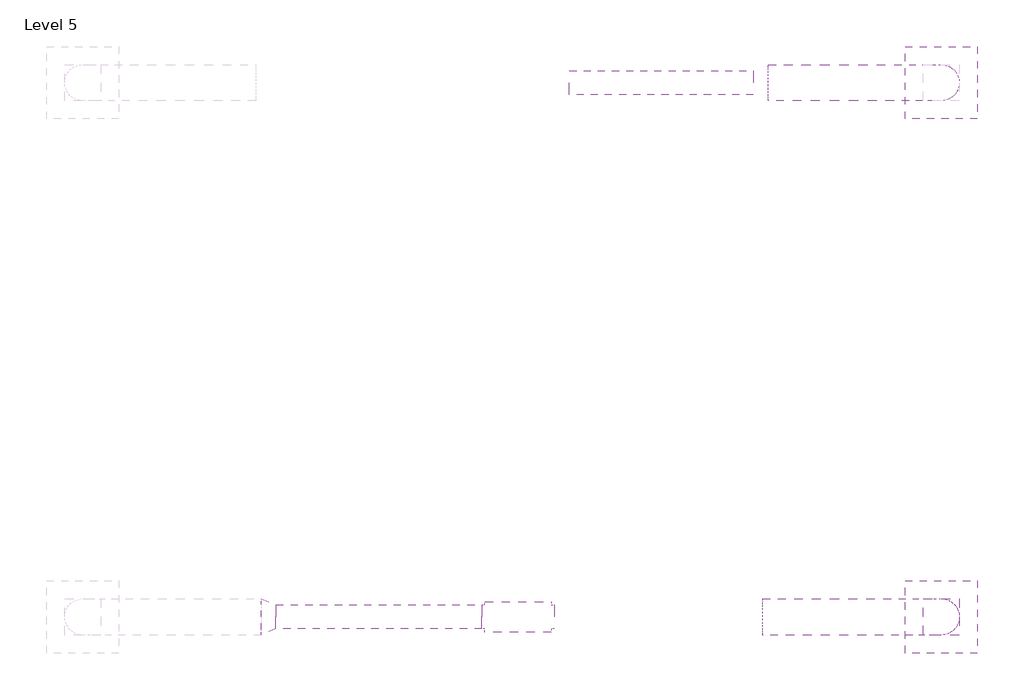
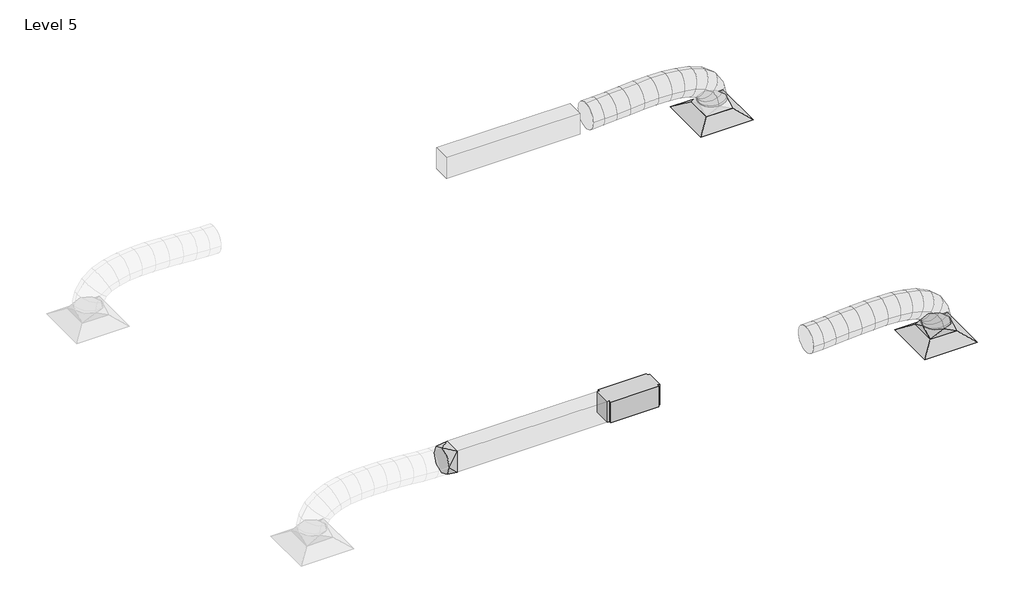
# One storey, part 6 of 7: 4 duct segments, 3 duct fittings, 2 air terminals.
"""IFC4 building model written with IfcOpenShell, lengths in millimetres."""

from ifc_helpers import new_model, si_unit, frame, origin, place, context, project, spatial, polyline, circle_curve, ellipse_curve, outline, extrude, transform, mapped, element, save
from ifc_brep_helpers import plane_surface, cylinder_surface, advanced_brep
from components import supply_diffuser_24_x_24_face_16_x_16_connection_ff221211, rectangular_cross_standard_e33e2d2a, rectangular_to_round_transition_angle_45_degree_641efff0, rectangular_to_round_transition_angle_45_degree_389d55c9

model = new_model("IFC4")

# Units and contexts
model_context = context("Model", 3, world=origin())
ifc_project = project(units=[si_unit("LENGTHUNIT", "METRE", prefix="MILLI")], contexts=[model_context])

# Site, building, storey
site = spatial("IfcSite", under=ifc_project)
building = spatial("IfcBuilding", under=site)
storey = spatial("IfcBuildingStorey", under=building, Name="Level 5", Elevation=19507.2)

# Air terminals
placement = place(None, origin())
supply_diffuser_24_x_24_face_16_x_16_connection_shape = supply_diffuser_24_x_24_face_16_x_16_connection_ff221211(model_context)
element("IfcAirTerminal", 1, ObjectType="Supply Diffuser : 24 x 24 Face 16 x 16 Connection", at=placement, inside=storey, context=model_context, shape_type="MappedRepresentation", body=[
    mapped(supply_diffuser_24_x_24_face_16_x_16_connection_shape, transform((5721.7425718, 8760.722681, 21507.2), x_axis=(1.0, 0.0, 0.0), y_axis=(0.0, 1.0, 0.0), z_axis=(0.0, 0.0, 1.0))),
])
element("IfcAirTerminal", 2, ObjectType="Supply Diffuser : 24 x 24 Face 16 x 16 Connection", at=placement, inside=storey, context=model_context, shape_type="MappedRepresentation", body=[
    mapped(supply_diffuser_24_x_24_face_16_x_16_connection_shape, transform((5721.7425718, 4332.0573383, 21507.2), x_axis=(1.0, 0.0, 0.0), y_axis=(0.0, 1.0, 0.0), z_axis=(0.0, 0.0, 1.0))),
])

# Duct fittings
rectangular_cross_standard_shape = rectangular_cross_standard_e33e2d2a(model_context)
element("IfcDuctFitting", 3, ObjectType="Rectangular Cross : Standard", at=placement, inside=storey, context=model_context, shape_type="MappedRepresentation", body=[
    mapped(rectangular_cross_standard_shape, transform((2213.8567543, 4332.0573383, 21983.425), x_axis=(0.0, 1.0, 0.0), y_axis=(-1.0, 0.0, 0.0), z_axis=(0.0, 0.0, 1.0))),
])
rectangular_to_round_transition_angle_45_degree_shape = rectangular_to_round_transition_angle_45_degree_641efff0(model_context)
element("IfcDuctFitting", 4, ObjectType="Rectangular to Round Transition - Angle : 45 Degree", at=placement, inside=storey, context=model_context, shape_type="MappedRepresentation", body=[
    mapped(rectangular_to_round_transition_angle_45_degree_shape, transform((5721.7425718, 4332.0573383, 21608.8), x_axis=(0.0, 0.0, 1.0), y_axis=(-1.0, 0.0, 0.0), z_axis=(0.0, -1.0, 0.0))),
])
rectangular_to_round_transition_angle_45_degree_2_shape = rectangular_to_round_transition_angle_45_degree_389d55c9(model_context)
element("IfcDuctFitting", 5, ObjectType="Rectangular to Round Transition - Angle : 45 Degree", at=placement, inside=storey, context=model_context, shape_type="MappedRepresentation", body=[
    mapped(rectangular_to_round_transition_angle_45_degree_2_shape, transform((204.5785277, 4332.0573383, 21983.425), x_axis=(-1.0, 0.0, 0.0), y_axis=(0.0, -1.0, 0.0), z_axis=(0.0, 0.0, 1.0))),
])

# Duct segments
element("IfcDuctSegment", 6, ObjectType="Flex - Round", at=placement, inside=storey, context=model_context, shape_type="AdvancedBrep", body=[
    advanced_brep(
    [(5871.7425718, 8760.722681, 21683.8), (5721.7425718, 8610.722681, 21683.8), (5571.7425718, 8760.722681, 21683.8), (5721.7425718, 8910.722681, 21683.8), (5871.7425718, 8760.722681, 21726.4386999), (5721.7425718, 8610.722681, 21709.537629), (5571.7425718, 8760.722681, 21692.6365582), (5721.7425718, 8910.722681, 21709.537629), (5843.2263211, 8760.722681, 21851.3755727), (5702.8228234, 8610.722681, 21792.4298095), (5562.4193257, 8760.722681, 21733.4840463), (5702.8228234, 8910.722681, 21792.4298095), (5760.5349522, 8760.722681, 21980.2245238), (5649.3166285, 8610.722681, 21875.8026836), (5538.0983049, 8760.722681, 21771.3808434), (5649.3166285, 8910.722681, 21875.8026836), (5638.8818326, 8760.722681, 22069.5928255), (5566.1035624, 8610.722681, 21936.9323153), (5493.3252922, 8760.722681, 21804.2718051), (5566.1035624, 8910.722681, 21936.9323153), (5500.2491473, 8760.722681, 22123.3571856), (5458.0632003, 8610.722681, 21978.8323977), (5415.8772533, 8760.722681, 21834.3076098), (5458.0632003, 8910.722681, 21978.8323977), (5351.4165518, 8760.722681, 22153.2244198), (5330.0751175, 8610.722681, 22004.5166239), (5308.7336833, 8760.722681, 21855.8088279), (5330.0751175, 8910.722681, 22004.5166239), (5194.6704032, 8760.722681, 22166.9009673), (5187.0188893, 8610.722681, 22016.9986868), (5179.3673754, 8760.722681, 21867.0964064), (5187.0188893, 8910.722681, 22016.9986868), (5032.5880275, 8760.722681, 22169.3268308), (5033.774091, 8610.722681, 22019.2922796), (5034.9601544, 8760.722681, 21869.2577284), (5033.774091, 8910.722681, 22019.2922796), (4868.6525644, 8760.722681, 22164.2799683), (4875.2202978, 8610.722681, 22014.4110954), (4881.7880312, 8760.722681, 21864.5422225), (4875.2202978, 8910.722681, 22014.4110954), (4707.0434467, 8760.722681, 22155.0883501), (4716.237085, 8610.722681, 22005.3688271), (4725.4307233, 8760.722681, 21855.6493042), (4716.237085, 8910.722681, 22005.3688271), (4552.4770852, 8760.722681, 22144.8964948), (4561.704028, 8610.722681, 21995.1791679), (4570.9309708, 8760.722681, 21845.461841), (4561.704028, 8910.722681, 21995.1791679), (4410.17521, 8760.722681, 22136.7394549), (4416.5007019, 8610.722681, 21986.8558108), (4422.8261938, 8760.722681, 21836.9721667), (4416.5007019, 8910.722681, 21986.8558108), (4287.4181734, 8760.722681, 22133.4124301), (4289.4497531, 8610.722681, 21983.4124102), (4291.4813329, 8760.722681, 21833.4123902), (4289.4497531, 8910.722681, 21983.4124102), (4285.5081543, 8760.722681, 22133.4124488), (4285.5066821, 8610.722681, 21983.4124489), (4285.5052099, 8760.722681, 21833.4124489), (4285.5066821, 8910.722681, 21983.4124489)],
    [
        (0, 1, circle_curve(frame((5721.7425718, 8760.722681, 21683.8), z_axis=(0.0, 0.0, -1.0), x_axis=(1.0, 0.0, 0.0)), 150.0)),
        (1, 2, circle_curve(frame((5721.7425718, 8760.722681, 21683.8), z_axis=(0.0, 0.0, -1.0), x_axis=(1.0, 0.0, 0.0)), 150.0)),
        (2, 3, circle_curve(frame((5721.7425718, 8760.722681, 21683.8), z_axis=(0.0, 0.0, -1.0), x_axis=(1.0, 0.0, 0.0)), 150.0)),
        (3, 0, circle_curve(frame((5721.7425718, 8760.722681, 21683.8), z_axis=(0.0, 0.0, -1.0), x_axis=(1.0, 0.0, 0.0)), 150.0)),
        (0, 4),
        (4, 5, ellipse_curve(frame((5721.7425718, 8760.722681, 21709.537629), z_axis=(0.11196532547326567, 0.0, -0.9937121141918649), x_axis=(-0.9937121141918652, 0.0, -0.1119653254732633)), 150.949151, 150.0)),
        (5, 1),
        (5, 6, ellipse_curve(frame((5721.7425718, 8760.722681, 21709.537629), z_axis=(0.11196532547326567, 0.0, -0.9937121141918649), x_axis=(-0.9937121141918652, 0.0, -0.1119653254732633)), 150.949151, 150.0)),
        (6, 2),
        (6, 7, ellipse_curve(frame((5721.7425718, 8760.722681, 21709.537629), z_axis=(0.11196532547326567, 0.0, -0.9937121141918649), x_axis=(-0.9937121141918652, 0.0, -0.1119653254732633)), 150.949151, 150.0)),
        (7, 3),
        (7, 4, ellipse_curve(frame((5721.7425718, 8760.722681, 21709.537629), z_axis=(0.11196532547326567, 0.0, -0.9937121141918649), x_axis=(-0.9937121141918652, 0.0, -0.1119653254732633)), 150.949151, 150.0)),
        (4, 8),
        (8, 9, ellipse_curve(frame((5702.8228234, 8760.722681, 21792.4298095), z_axis=(0.38710014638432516, 0.0, -0.9220376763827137), x_axis=(-0.9220376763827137, 0.0, -0.3871001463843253)), 152.2752283, 150.0)),
        (9, 5),
        (9, 10, ellipse_curve(frame((5702.8228234, 8760.722681, 21792.4298095), z_axis=(0.38710014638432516, 0.0, -0.9220376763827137), x_axis=(-0.9220376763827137, 0.0, -0.3871001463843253)), 152.2752283, 150.0)),
        (10, 6),
        (10, 11, ellipse_curve(frame((5702.8228234, 8760.722681, 21792.4298095), z_axis=(0.38710014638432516, 0.0, -0.9220376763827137), x_axis=(-0.9220376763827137, 0.0, -0.3871001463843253)), 152.2752283, 150.0)),
        (11, 7),
        (11, 8, ellipse_curve(frame((5702.8228234, 8760.722681, 21792.4298095), z_axis=(0.38710014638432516, 0.0, -0.9220376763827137), x_axis=(-0.9220376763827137, 0.0, -0.3871001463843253)), 152.2752283, 150.0)),
        (8, 12),
        (12, 13, ellipse_curve(frame((5649.3166285, 8760.722681, 21875.8026836), z_axis=(0.6844805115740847, 0.0, -0.7290311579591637), x_axis=(-0.7290311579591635, 0.0, -0.684480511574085)), 152.5563379, 150.0)),
        (13, 9),
        (13, 14, ellipse_curve(frame((5649.3166285, 8760.722681, 21875.8026836), z_axis=(0.6844805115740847, 0.0, -0.7290311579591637), x_axis=(-0.7290311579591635, 0.0, -0.684480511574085)), 152.5563379, 150.0)),
        (14, 10),
        (14, 15, ellipse_curve(frame((5649.3166285, 8760.722681, 21875.8026836), z_axis=(0.6844805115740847, 0.0, -0.7290311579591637), x_axis=(-0.7290311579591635, 0.0, -0.684480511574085)), 152.5563379, 150.0)),
        (15, 11),
        (15, 12, ellipse_curve(frame((5649.3166285, 8760.722681, 21875.8026836), z_axis=(0.6844805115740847, 0.0, -0.7290311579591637), x_axis=(-0.7290311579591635, 0.0, -0.684480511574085)), 152.5563379, 150.0)),
        (12, 16),
        (16, 17, ellipse_curve(frame((5566.1035624, 8760.722681, 21936.9323153), z_axis=(0.8767317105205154, 0.0, -0.48097973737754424), x_axis=(-0.4809797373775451, 0.0, -0.8767317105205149)), 151.3125493, 150.0)),
        (17, 13),
        (17, 18, ellipse_curve(frame((5566.1035624, 8760.722681, 21936.9323153), z_axis=(0.8767317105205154, 0.0, -0.48097973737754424), x_axis=(-0.4809797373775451, 0.0, -0.8767317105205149)), 151.3125493, 150.0)),
        (18, 14),
        (18, 19, ellipse_curve(frame((5566.1035624, 8760.722681, 21936.9323153), z_axis=(0.8767317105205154, 0.0, -0.48097973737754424), x_axis=(-0.4809797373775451, 0.0, -0.8767317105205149)), 151.3125493, 150.0)),
        (19, 15),
        (19, 16, ellipse_curve(frame((5566.1035624, 8760.722681, 21936.9323153), z_axis=(0.8767317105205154, 0.0, -0.48097973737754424), x_axis=(-0.4809797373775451, 0.0, -0.8767317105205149)), 151.3125493, 150.0)),
        (16, 20),
        (20, 21, ellipse_curve(frame((5458.0632003, 8760.722681, 21978.8323977), z_axis=(0.9599412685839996, 0.0, -0.2802012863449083), x_axis=(-0.28020128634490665, 0.0, -0.9599412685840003)), 150.5558649, 150.0)),
        (21, 17),
        (21, 22, ellipse_curve(frame((5458.0632003, 8760.722681, 21978.8323977), z_axis=(0.9599412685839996, 0.0, -0.2802012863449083), x_axis=(-0.28020128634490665, 0.0, -0.9599412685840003)), 150.5558649, 150.0)),
        (22, 18),
        (22, 23, ellipse_curve(frame((5458.0632003, 8760.722681, 21978.8323977), z_axis=(0.9599412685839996, 0.0, -0.2802012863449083), x_axis=(-0.28020128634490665, 0.0, -0.9599412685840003)), 150.5558649, 150.0)),
        (23, 19),
        (23, 20, ellipse_curve(frame((5458.0632003, 8760.722681, 21978.8323977), z_axis=(0.9599412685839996, 0.0, -0.2802012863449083), x_axis=(-0.28020128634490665, 0.0, -0.9599412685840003)), 150.5558649, 150.0)),
        (20, 24),
        (24, 25, ellipse_curve(frame((5330.0751175, 8760.722681, 22004.5166239), z_axis=(0.9898584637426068, 0.0, -0.14205710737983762), x_axis=(-0.14205710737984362, 0.0, -0.9898584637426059)), 150.2313729, 150.0)),
        (25, 21),
        (25, 26, ellipse_curve(frame((5330.0751175, 8760.722681, 22004.5166239), z_axis=(0.9898584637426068, 0.0, -0.14205710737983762), x_axis=(-0.14205710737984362, 0.0, -0.9898584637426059)), 150.2313729, 150.0)),
        (26, 22),
        (26, 27, ellipse_curve(frame((5330.0751175, 8760.722681, 22004.5166239), z_axis=(0.9898584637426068, 0.0, -0.14205710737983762), x_axis=(-0.14205710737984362, 0.0, -0.9898584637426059)), 150.2313729, 150.0)),
        (27, 23),
        (27, 24, ellipse_curve(frame((5330.0751175, 8760.722681, 22004.5166239), z_axis=(0.9898584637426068, 0.0, -0.14205710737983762), x_axis=(-0.14205710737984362, 0.0, -0.9898584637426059)), 150.2313729, 150.0)),
        (24, 28),
        (28, 29, ellipse_curve(frame((5187.0188893, 8760.722681, 22016.9986868), z_axis=(0.9986998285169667, 0.0, -0.05097698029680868), x_axis=(-0.050976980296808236, 0.0, -0.9986998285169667)), 150.0974329, 150.0)),
        (29, 25),
        (29, 30, ellipse_curve(frame((5187.0188893, 8760.722681, 22016.9986868), z_axis=(0.9986998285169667, 0.0, -0.05097698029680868), x_axis=(-0.050976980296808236, 0.0, -0.9986998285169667)), 150.0974329, 150.0)),
        (30, 26),
        (30, 31, ellipse_curve(frame((5187.0188893, 8760.722681, 22016.9986868), z_axis=(0.9986998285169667, 0.0, -0.05097698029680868), x_axis=(-0.050976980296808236, 0.0, -0.9986998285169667)), 150.0974329, 150.0)),
        (31, 27),
        (31, 28, ellipse_curve(frame((5187.0188893, 8760.722681, 22016.9986868), z_axis=(0.9986998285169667, 0.0, -0.05097698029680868), x_axis=(-0.050976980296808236, 0.0, -0.9986998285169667)), 150.0974329, 150.0)),
        (28, 32),
        (32, 33, ellipse_curve(frame((5033.774091, 8760.722681, 22019.2922796), z_axis=(0.999968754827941, 0.0, 0.0079050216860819), x_axis=(0.007905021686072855, 0.0, -0.9999687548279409)), 150.0392392, 150.0)),
        (33, 29),
        (33, 34, ellipse_curve(frame((5033.774091, 8760.722681, 22019.2922796), z_axis=(0.999968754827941, 0.0, 0.0079050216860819), x_axis=(0.007905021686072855, 0.0, -0.9999687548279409)), 150.0392392, 150.0)),
        (34, 30),
        (34, 35, ellipse_curve(frame((5033.774091, 8760.722681, 22019.2922796), z_axis=(0.999968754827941, 0.0, 0.0079050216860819), x_axis=(0.007905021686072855, 0.0, -0.9999687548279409)), 150.0392392, 150.0)),
        (35, 31),
        (35, 32, ellipse_curve(frame((5033.774091, 8760.722681, 22019.2922796), z_axis=(0.999968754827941, 0.0, 0.0079050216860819), x_axis=(0.007905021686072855, 0.0, -0.9999687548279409)), 150.0392392, 150.0)),
        (32, 36),
        (36, 37, ellipse_curve(frame((4875.2202978, 8760.722681, 22014.4110954), z_axis=(0.9990411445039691, 0.0, 0.043781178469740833), x_axis=(0.04378117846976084, 0.0, -0.9990411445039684)), 150.0127134, 150.0)),
        (37, 33),
        (37, 38, ellipse_curve(frame((4875.2202978, 8760.722681, 22014.4110954), z_axis=(0.9990411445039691, 0.0, 0.043781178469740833), x_axis=(0.04378117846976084, 0.0, -0.9990411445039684)), 150.0127134, 150.0)),
        (38, 34),
        (38, 39, ellipse_curve(frame((4875.2202978, 8760.722681, 22014.4110954), z_axis=(0.9990411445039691, 0.0, 0.043781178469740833), x_axis=(0.04378117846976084, 0.0, -0.9990411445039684)), 150.0127134, 150.0)),
        (39, 35),
        (39, 36, ellipse_curve(frame((4875.2202978, 8760.722681, 22014.4110954), z_axis=(0.9990411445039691, 0.0, 0.043781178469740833), x_axis=(0.04378117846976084, 0.0, -0.9990411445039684)), 150.0127134, 150.0)),
        (36, 40),
        (40, 41, ellipse_curve(frame((4716.237085, 8760.722681, 22005.3688271), z_axis=(0.9981199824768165, 0.0, 0.061290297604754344), x_axis=(0.061290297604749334, 0.0, -0.9981199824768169)), 150.0015284, 150.0)),
        (41, 37),
        (41, 42, ellipse_curve(frame((4716.237085, 8760.722681, 22005.3688271), z_axis=(0.9981199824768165, 0.0, 0.061290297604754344), x_axis=(0.061290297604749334, 0.0, -0.9981199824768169)), 150.0015284, 150.0)),
        (42, 38),
        (42, 43, ellipse_curve(frame((4716.237085, 8760.722681, 22005.3688271), z_axis=(0.9981199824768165, 0.0, 0.061290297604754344), x_axis=(0.061290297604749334, 0.0, -0.9981199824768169)), 150.0015284, 150.0)),
        (43, 39),
        (43, 40, ellipse_curve(frame((4716.237085, 8760.722681, 22005.3688271), z_axis=(0.9981199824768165, 0.0, 0.061290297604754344), x_axis=(0.061290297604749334, 0.0, -0.9981199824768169)), 150.0015284, 150.0)),
        (40, 44),
        (44, 45, ellipse_curve(frame((4561.704028, 8760.722681, 21995.1791679), z_axis=(0.9981063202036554, 0.0, 0.06151238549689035), x_axis=(-0.06151238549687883, -1.6819879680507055e-12, 0.9981063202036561)), 150.0013815, 150.0)),
        (45, 41),
        (45, 46, ellipse_curve(frame((4561.704028, 8760.722681, 21995.1791679), z_axis=(0.9981063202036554, 0.0, 0.06151238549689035), x_axis=(-0.06151238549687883, -1.6819879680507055e-12, 0.9981063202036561)), 150.0013815, 150.0)),
        (46, 42),
        (46, 47, ellipse_curve(frame((4561.704028, 8760.722681, 21995.1791679), z_axis=(0.9981063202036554, 0.0, 0.06151238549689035), x_axis=(-0.06151238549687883, -1.6819879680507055e-12, 0.9981063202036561)), 150.0013815, 150.0)),
        (47, 43),
        (47, 44, ellipse_curve(frame((4561.704028, 8760.722681, 21995.1791679), z_axis=(0.9981063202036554, 0.0, 0.06151238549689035), x_axis=(-0.06151238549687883, -1.6819879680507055e-12, 0.9981063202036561)), 150.0013815, 150.0)),
        (44, 48),
        (48, 49, ellipse_curve(frame((4416.5007019, 8760.722681, 21986.8558108), z_axis=(0.9991106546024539, 0.0, 0.04216514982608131), x_axis=(-0.04216514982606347, 0.0, 0.9991106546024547)), 150.0170611, 150.0)),
        (49, 45),
        (49, 50, ellipse_curve(frame((4416.5007019, 8760.722681, 21986.8558108), z_axis=(0.9991106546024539, 0.0, 0.04216514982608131), x_axis=(-0.04216514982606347, 0.0, 0.9991106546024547)), 150.0170611, 150.0)),
        (50, 46),
        (50, 51, ellipse_curve(frame((4416.5007019, 8760.722681, 21986.8558108), z_axis=(0.9991106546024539, 0.0, 0.04216514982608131), x_axis=(-0.04216514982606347, 0.0, 0.9991106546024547)), 150.0170611, 150.0)),
        (51, 47),
        (51, 48, ellipse_curve(frame((4416.5007019, 8760.722681, 21986.8558108), z_axis=(0.9991106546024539, 0.0, 0.04216514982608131), x_axis=(-0.04216514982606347, 0.0, 0.9991106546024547)), 150.0170611, 150.0)),
        (48, 52),
        (52, 53, ellipse_curve(frame((4289.4497531, 8760.722681, 21983.4124102), z_axis=(0.9999082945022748, 0.0, 0.013542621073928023), x_axis=(-0.013542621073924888, 0.0, 0.9999082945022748)), 150.013777, 150.0)),
        (53, 49),
        (53, 54, ellipse_curve(frame((4289.4497531, 8760.722681, 21983.4124102), z_axis=(0.9999082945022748, 0.0, 0.013542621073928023), x_axis=(-0.013542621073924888, 0.0, 0.9999082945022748)), 150.013777, 150.0)),
        (54, 50),
        (54, 55, ellipse_curve(frame((4289.4497531, 8760.722681, 21983.4124102), z_axis=(0.9999082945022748, 0.0, 0.013542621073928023), x_axis=(-0.013542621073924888, 0.0, 0.9999082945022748)), 150.013777, 150.0)),
        (55, 51),
        (55, 52, ellipse_curve(frame((4289.4497531, 8760.722681, 21983.4124102), z_axis=(0.9999082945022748, 0.0, 0.013542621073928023), x_axis=(-0.013542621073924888, 0.0, 0.9999082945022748)), 150.013777, 150.0)),
        (52, 56),
        (56, 57, circle_curve(frame((4285.5066821, 8760.722681, 21983.4124489), z_axis=(0.999999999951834, 0.0, -9.814891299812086e-06), x_axis=(9.814891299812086e-06, 0.0, 0.999999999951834)), 150.0)),
        (57, 53),
        (57, 58, circle_curve(frame((4285.5066821, 8760.722681, 21983.4124489), z_axis=(0.999999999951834, 0.0, -9.814891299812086e-06), x_axis=(9.814891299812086e-06, 0.0, 0.999999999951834)), 150.0)),
        (58, 54),
        (58, 59, circle_curve(frame((4285.5066821, 8760.722681, 21983.4124489), z_axis=(0.999999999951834, 0.0, -9.814891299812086e-06), x_axis=(9.814891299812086e-06, 0.0, 0.999999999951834)), 150.0)),
        (59, 55),
        (59, 56, circle_curve(frame((4285.5066821, 8760.722681, 21983.4124489), z_axis=(0.999999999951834, 0.0, -9.814891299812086e-06), x_axis=(9.814891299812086e-06, 0.0, 0.999999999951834)), 150.0)),
    ],
    [
        plane_surface(frame((5721.7425718, 8610.722681, 21683.8), z_axis=(0.0, 0.0, -1.0), x_axis=(1.0, 0.0, 0.0))),
        cylinder_surface(frame((5721.7425718, 8760.722681, 21683.8), z_axis=(0.0, 0.0, -1.0), x_axis=(1.0, 0.0, 0.0)), 150.0),
        cylinder_surface(frame((5721.7425718, 8760.722681, 21709.537629), z_axis=(0.22252260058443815, 0.0, -0.9749275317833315), x_axis=(0.9749275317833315, 0.0, 0.22252260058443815)), 150.0),
        cylinder_surface(frame((5702.8228234, 8760.722681, 21792.4298095), z_axis=(0.5401099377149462, 0.0, -0.8415944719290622), x_axis=(0.8415944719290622, 0.0, 0.5401099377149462)), 150.0),
        cylinder_surface(frame((5649.3166285, 8760.722681, 21875.8026836), z_axis=(0.8059118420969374, 0.0, -0.5920355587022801), x_axis=(0.5920355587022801, 0.0, 0.8059118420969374)), 150.0),
        cylinder_surface(frame((5566.1035624, 8760.722681, 21936.9323153), z_axis=(0.9323412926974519, 0.0, -0.361579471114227), x_axis=(0.361579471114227, 0.0, 0.9323412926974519)), 150.0),
        cylinder_surface(frame((5458.0632003, 8760.722681, 21978.8323977), z_axis=(0.9804528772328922, 0.0, -0.1967540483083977), x_axis=(0.1967540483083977, 0.0, 0.9804528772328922)), 150.0),
        cylinder_surface(frame((5330.0751175, 8760.722681, 22004.5166239), z_axis=(0.9962150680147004, 0.0, -0.08692259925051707), x_axis=(0.08692259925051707, 0.0, 0.9962150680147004)), 150.0),
        cylinder_surface(frame((5187.0188893, 8760.722681, 22016.9986868), z_axis=(0.9998880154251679, 0.0, -0.014965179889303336), x_axis=(0.014965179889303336, 0.0, 0.9998880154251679)), 150.0),
        cylinder_surface(frame((5033.774091, 8760.722681, 22019.2922796), z_axis=(0.9995264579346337, 0.0, 0.030771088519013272), x_axis=(-0.030771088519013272, 0.0, 0.9995264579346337)), 150.0),
        cylinder_surface(frame((4875.2202978, 8760.722681, 22014.4110954), z_axis=(0.9983864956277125, 0.0, 0.05678384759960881), x_axis=(-0.05678384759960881, 0.0, 0.9983864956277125)), 150.0),
        cylinder_surface(frame((4716.237085, 8760.722681, 22005.3688271), z_axis=(0.9978331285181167, 0.0, 0.06579549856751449), x_axis=(-0.06579549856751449, 0.0, 0.9978331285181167)), 150.0),
        cylinder_surface(frame((4561.704028, 8760.722681, 21995.1791679), z_axis=(0.9983611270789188, 0.0, 0.05722813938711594), x_axis=(-0.05722813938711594, 0.0, 0.9983611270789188)), 150.0),
        cylinder_surface(frame((4416.5007019, 8760.722681, 21986.8558108), z_axis=(0.999632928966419, 0.0, 0.027092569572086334), x_axis=(-0.027092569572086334, 0.0, 0.999632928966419)), 150.0),
        cylinder_surface(frame((4289.4497531, 8760.722681, 21983.4124102), z_axis=(0.999999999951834, 0.0, -9.814891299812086e-06), x_axis=(9.814891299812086e-06, 0.0, 0.999999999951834)), 150.0),
        plane_surface(frame((4285.5052099, 8760.722681, 21833.4124489), z_axis=(-0.999999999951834, 0.0, 9.814891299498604e-06), x_axis=(0.0, -1.0, 0.0))),
    ],
    [
        (0, [[1, 2, 3, 4]]),
        (1, [[-1, 5, 6, 7]]),
        (1, [[-2, -7, 8, 9]]),
        (1, [[-3, -9, 10, 11]]),
        (1, [[-4, -11, 12, -5]]),
        (2, [[-6, 13, 14, 15]]),
        (2, [[-8, -15, 16, 17]]),
        (2, [[-10, -17, 18, 19]]),
        (2, [[-12, -19, 20, -13]]),
        (3, [[-14, 21, 22, 23]]),
        (3, [[-16, -23, 24, 25]]),
        (3, [[-18, -25, 26, 27]]),
        (3, [[-20, -27, 28, -21]]),
        (4, [[-22, 29, 30, 31]]),
        (4, [[-24, -31, 32, 33]]),
        (4, [[-26, -33, 34, 35]]),
        (4, [[-28, -35, 36, -29]]),
        (5, [[-30, 37, 38, 39]]),
        (5, [[-32, -39, 40, 41]]),
        (5, [[-34, -41, 42, 43]]),
        (5, [[-36, -43, 44, -37]]),
        (6, [[-38, 45, 46, 47]]),
        (6, [[-40, -47, 48, 49]]),
        (6, [[-42, -49, 50, 51]]),
        (6, [[-44, -51, 52, -45]]),
        (7, [[-46, 53, 54, 55]]),
        (7, [[-48, -55, 56, 57]]),
        (7, [[-50, -57, 58, 59]]),
        (7, [[-52, -59, 60, -53]]),
        (8, [[-54, 61, 62, 63]]),
        (8, [[-56, -63, 64, 65]]),
        (8, [[-58, -65, 66, 67]]),
        (8, [[-60, -67, 68, -61]]),
        (9, [[-62, 69, 70, 71]]),
        (9, [[-64, -71, 72, 73]]),
        (9, [[-66, -73, 74, 75]]),
        (9, [[-68, -75, 76, -69]]),
        (10, [[-70, 77, 78, 79]]),
        (10, [[-72, -79, 80, 81]]),
        (10, [[-74, -81, 82, 83]]),
        (10, [[-76, -83, 84, -77]]),
        (11, [[-78, 85, 86, 87]]),
        (11, [[-80, -87, 88, 89]]),
        (11, [[-82, -89, 90, 91]]),
        (11, [[-84, -91, 92, -85]]),
        (12, [[-86, 93, 94, 95]]),
        (12, [[-88, -95, 96, 97]]),
        (12, [[-90, -97, 98, 99]]),
        (12, [[-92, -99, 100, -93]]),
        (13, [[-94, 101, 102, 103]]),
        (13, [[-96, -103, 104, 105]]),
        (13, [[-98, -105, 106, 107]]),
        (13, [[-100, -107, 108, -101]]),
        (14, [[-102, 109, 110, 111]]),
        (14, [[-104, -111, 112, 113]]),
        (14, [[-106, -113, 114, 115]]),
        (14, [[-108, -115, 116, -109]]),
        (15, [[-116, -114, -112, -110]]),
    ],
),
])
element("IfcDuctSegment", 7, ObjectType="Flex - Round", at=placement, inside=storey, context=model_context, shape_type="AdvancedBrep", body=[
    advanced_brep(
    [(5871.7425718, 4332.0573383, 21683.8), (5721.7425718, 4182.0573383, 21683.8), (5571.7425718, 4332.0573383, 21683.8), (5721.7425718, 4482.0573383, 21683.8), (5871.7425718, 4332.0573383, 21722.9632108), (5721.7425718, 4182.0573383, 21707.5459491), (5571.7425718, 4332.0573383, 21692.1286874), (5721.7425718, 4482.0573383, 21707.5459491), (5846.9689304, 4332.0573383, 21842.2058379), (5705.0661708, 4182.0573383, 21787.8142402), (5563.1634113, 4332.0573383, 21733.4226424), (5705.0661708, 4482.0573383, 21787.8142402), (5773.8505136, 4332.0573383, 21967.7998552), (5657.6767675, 4182.0573383, 21869.2140545), (5541.5030213, 4332.0573383, 21770.6282538), (5657.6767675, 4482.0573383, 21869.2140545), (5663.5198142, 4332.0573383, 22058.9787811), (5583.534061, 4182.0573383, 21930.4866865), (5503.5483077, 4332.0573383, 21801.9945918), (5583.534061, 4482.0573383, 21930.4866865), (5535.7022815, 4332.0573383, 22116.5116411), (5486.5977506, 4182.0573383, 21974.1193795), (5437.4932196, 4332.0573383, 21831.727118), (5486.5977506, 4482.0573383, 21974.1193795), (5397.8550891, 4332.0573383, 22150.4226751), (5370.8275355, 4182.0573383, 22002.5993771), (5343.799982, 4332.0573383, 21854.7760791), (5370.8275355, 4482.0573383, 22002.5993771), (5252.1994814, 4332.0573383, 22168.0543293), (5240.1831151, 4182.0573383, 22018.4139226), (5228.1667488, 4332.0573383, 21868.773516), (5240.1831151, 4482.0573383, 22018.4139226), (5100.5719429, 4332.0573383, 22174.0915601), (5098.6241886, 4182.0573383, 22024.0502596), (5096.6764343, 4332.0573383, 21874.0089592), (5098.6241886, 4482.0573383, 22024.0502596), (4945.4827026, 4332.0573383, 22171.9459624), (4950.1104553, 4182.0573383, 22021.9956315), (4954.7382079, 4332.0573383, 21872.0453006), (4950.1104553, 4482.0573383, 22021.9956315), (4790.0534716, 4332.0573383, 22164.4997981), (4798.6016143, 4182.0573383, 22014.7372817), (4807.149757, 4332.0573383, 21864.9747653), (4798.6016143, 4482.0573383, 22014.7372817), (4637.8561796, 4332.0573383, 22154.4154421), (4648.057365, 4182.0573383, 22004.7624537), (4658.2585504, 4332.0573383, 21855.1094654), (4648.057365, 4482.0573383, 22004.7624537), (4492.8433401, 4332.0573383, 22144.2539221), (4502.4374067, 4182.0573383, 21994.558391), (4512.0314733, 4332.0573383, 21844.8628598), (4502.4374067, 4482.0573383, 21994.558391), (4359.3492618, 4332.0573383, 22136.496262), (4365.7014385, 4182.0573383, 21986.6123369), (4372.0536152, 4332.0573383, 21836.7284118), (4365.7014385, 4482.0573383, 21986.6123369), (4243.6850452, 4332.0573383, 22133.4115204), (4245.6843403, 4182.0573383, 21983.4115048), (4247.6836353, 4332.0573383, 21833.4114892), (4245.6843403, 4482.0573383, 21983.4115048), (4241.810329, 4332.0573383, 22133.411535), (4241.8091598, 4182.0573383, 21983.411535), (4241.8079907, 4332.0573383, 21833.411535), (4241.8091598, 4482.0573383, 21983.411535)],
    [
        (0, 1, circle_curve(frame((5721.7425718, 4332.0573383, 21683.8), z_axis=(0.0, 0.0, -1.0), x_axis=(1.0, 0.0, 0.0)), 150.0)),
        (1, 2, circle_curve(frame((5721.7425718, 4332.0573383, 21683.8), z_axis=(0.0, 0.0, -1.0), x_axis=(1.0, 0.0, 0.0)), 150.0)),
        (2, 3, circle_curve(frame((5721.7425718, 4332.0573383, 21683.8), z_axis=(0.0, 0.0, -1.0), x_axis=(1.0, 0.0, 0.0)), 150.0)),
        (3, 0, circle_curve(frame((5721.7425718, 4332.0573383, 21683.8), z_axis=(0.0, 0.0, -1.0), x_axis=(1.0, 0.0, 0.0)), 150.0)),
        (0, 4),
        (4, 5, ellipse_curve(frame((5721.7425718, 4332.0573383, 21707.5459491), z_axis=(0.10224311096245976, 0.0, -0.9947594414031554), x_axis=(-0.9947594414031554, 0.0, -0.10224311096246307)), 150.790225, 150.0)),
        (5, 1),
        (5, 6, ellipse_curve(frame((5721.7425718, 4332.0573383, 21707.5459491), z_axis=(0.10224311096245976, 0.0, -0.9947594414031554), x_axis=(-0.9947594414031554, 0.0, -0.10224311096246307)), 150.790225, 150.0)),
        (6, 2),
        (6, 7, ellipse_curve(frame((5721.7425718, 4332.0573383, 21707.5459491), z_axis=(0.10224311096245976, 0.0, -0.9947594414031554), x_axis=(-0.9947594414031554, 0.0, -0.10224311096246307)), 150.790225, 150.0)),
        (7, 3),
        (7, 4, ellipse_curve(frame((5721.7425718, 4332.0573383, 21707.5459491), z_axis=(0.10224311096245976, 0.0, -0.9947594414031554), x_axis=(-0.9947594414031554, 0.0, -0.10224311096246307)), 150.790225, 150.0)),
        (4, 8),
        (8, 9, ellipse_curve(frame((5705.0661708, 4332.0573383, 21787.8142402), z_axis=(0.35791042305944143, 0.0, -0.9337559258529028), x_axis=(-0.933755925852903, 0.0, -0.3579104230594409)), 151.9698624, 150.0)),
        (9, 5),
        (9, 10, ellipse_curve(frame((5705.0661708, 4332.0573383, 21787.8142402), z_axis=(0.35791042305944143, 0.0, -0.9337559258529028), x_axis=(-0.933755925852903, 0.0, -0.3579104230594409)), 151.9698624, 150.0)),
        (10, 6),
        (10, 11, ellipse_curve(frame((5705.0661708, 4332.0573383, 21787.8142402), z_axis=(0.35791042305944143, 0.0, -0.9337559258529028), x_axis=(-0.933755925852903, 0.0, -0.3579104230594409)), 151.9698624, 150.0)),
        (11, 7),
        (11, 8, ellipse_curve(frame((5705.0661708, 4332.0573383, 21787.8142402), z_axis=(0.35791042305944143, 0.0, -0.9337559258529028), x_axis=(-0.933755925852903, 0.0, -0.3579104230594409)), 151.9698624, 150.0)),
        (8, 12),
        (12, 13, ellipse_curve(frame((5657.6767675, 4332.0573383, 21869.2140545), z_axis=(0.6470313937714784, 0.0, -0.762463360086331), x_axis=(-0.7624633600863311, 0.0, -0.6470313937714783)), 152.3663329, 150.0)),
        (13, 9),
        (13, 14, ellipse_curve(frame((5657.6767675, 4332.0573383, 21869.2140545), z_axis=(0.6470313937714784, 0.0, -0.762463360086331), x_axis=(-0.7624633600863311, 0.0, -0.6470313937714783)), 152.3663329, 150.0)),
        (14, 10),
        (14, 15, ellipse_curve(frame((5657.6767675, 4332.0573383, 21869.2140545), z_axis=(0.6470313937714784, 0.0, -0.762463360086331), x_axis=(-0.7624633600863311, 0.0, -0.6470313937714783)), 152.3663329, 150.0)),
        (15, 11),
        (15, 12, ellipse_curve(frame((5657.6767675, 4332.0573383, 21869.2140545), z_axis=(0.6470313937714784, 0.0, -0.762463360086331), x_axis=(-0.7624633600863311, 0.0, -0.6470313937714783)), 152.3663329, 150.0)),
        (12, 16),
        (16, 17, ellipse_curve(frame((5583.534061, 4332.0573383, 21930.4866865), z_axis=(0.8489525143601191, 0.0, -0.5284691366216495), x_axis=(-0.5284691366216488, 0.0, -0.8489525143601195)), 151.3536888, 150.0)),
        (17, 13),
        (17, 18, ellipse_curve(frame((5583.534061, 4332.0573383, 21930.4866865), z_axis=(0.8489525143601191, 0.0, -0.5284691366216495), x_axis=(-0.5284691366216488, 0.0, -0.8489525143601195)), 151.3536888, 150.0)),
        (18, 14),
        (18, 19, ellipse_curve(frame((5583.534061, 4332.0573383, 21930.4866865), z_axis=(0.8489525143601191, 0.0, -0.5284691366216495), x_axis=(-0.5284691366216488, 0.0, -0.8489525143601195)), 151.3536888, 150.0)),
        (19, 15),
        (19, 16, ellipse_curve(frame((5583.534061, 4332.0573383, 21930.4866865), z_axis=(0.8489525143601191, 0.0, -0.5284691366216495), x_axis=(-0.5284691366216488, 0.0, -0.8489525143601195)), 151.3536888, 150.0)),
        (16, 20),
        (20, 21, ellipse_curve(frame((5486.5977506, 4332.0573383, 21974.1193795), z_axis=(0.9453653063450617, 0.0, -0.3260129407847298), x_axis=(-0.3260129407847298, 0.0, -0.9453653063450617)), 150.6214165, 150.0)),
        (21, 17),
        (21, 22, ellipse_curve(frame((5486.5977506, 4332.0573383, 21974.1193795), z_axis=(0.9453653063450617, 0.0, -0.3260129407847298), x_axis=(-0.3260129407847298, 0.0, -0.9453653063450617)), 150.6214165, 150.0)),
        (22, 18),
        (22, 23, ellipse_curve(frame((5486.5977506, 4332.0573383, 21974.1193795), z_axis=(0.9453653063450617, 0.0, -0.3260129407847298), x_axis=(-0.3260129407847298, 0.0, -0.9453653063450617)), 150.6214165, 150.0)),
        (23, 19),
        (23, 20, ellipse_curve(frame((5486.5977506, 4332.0573383, 21974.1193795), z_axis=(0.9453653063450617, 0.0, -0.3260129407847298), x_axis=(-0.3260129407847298, 0.0, -0.9453653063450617)), 150.6214165, 150.0)),
        (20, 24),
        (24, 25, ellipse_curve(frame((5370.8275355, 4332.0573383, 22002.5993771), z_axis=(0.9836930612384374, 0.0, -0.1798553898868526), x_axis=(-0.17985538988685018, 0.0, -0.9836930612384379)), 150.2738037, 150.0)),
        (25, 21),
        (25, 26, ellipse_curve(frame((5370.8275355, 4332.0573383, 22002.5993771), z_axis=(0.9836930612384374, 0.0, -0.1798553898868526), x_axis=(-0.17985538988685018, 0.0, -0.9836930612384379)), 150.2738037, 150.0)),
        (26, 22),
        (26, 27, ellipse_curve(frame((5370.8275355, 4332.0573383, 22002.5993771), z_axis=(0.9836930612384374, 0.0, -0.1798553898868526), x_axis=(-0.17985538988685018, 0.0, -0.9836930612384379)), 150.2738037, 150.0)),
        (27, 23),
        (27, 24, ellipse_curve(frame((5370.8275355, 4332.0573383, 22002.5993771), z_axis=(0.9836930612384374, 0.0, -0.1798553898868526), x_axis=(-0.17985538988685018, 0.0, -0.9836930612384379)), 150.2738037, 150.0)),
        (24, 28),
        (28, 29, ellipse_curve(frame((5240.1831151, 4332.0573383, 22018.4139226), z_axis=(0.9967913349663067, 0.0, -0.0800439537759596), x_axis=(-0.08004395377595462, 0.0, -0.9967913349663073)), 150.1220982, 150.0)),
        (29, 25),
        (29, 30, ellipse_curve(frame((5240.1831151, 4332.0573383, 22018.4139226), z_axis=(0.9967913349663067, 0.0, -0.0800439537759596), x_axis=(-0.08004395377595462, 0.0, -0.9967913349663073)), 150.1220982, 150.0)),
        (30, 26),
        (30, 31, ellipse_curve(frame((5240.1831151, 4332.0573383, 22018.4139226), z_axis=(0.9967913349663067, 0.0, -0.0800439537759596), x_axis=(-0.08004395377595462, 0.0, -0.9967913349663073)), 150.1220982, 150.0)),
        (31, 27),
        (31, 28, ellipse_curve(frame((5240.1831151, 4332.0573383, 22018.4139226), z_axis=(0.9967913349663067, 0.0, -0.0800439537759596), x_axis=(-0.08004395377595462, 0.0, -0.9967913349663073)), 150.1220982, 150.0)),
        (28, 32),
        (32, 33, ellipse_curve(frame((5098.6241886, 4332.0573383, 22024.0502596), z_axis=(0.9999157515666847, 0.0, -0.01298036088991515), x_axis=(-0.01298036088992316, 0.0, -0.9999157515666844)), 150.0539422, 150.0)),
        (33, 29),
        (33, 34, ellipse_curve(frame((5098.6241886, 4332.0573383, 22024.0502596), z_axis=(0.9999157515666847, 0.0, -0.01298036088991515), x_axis=(-0.01298036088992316, 0.0, -0.9999157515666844)), 150.0539422, 150.0)),
        (34, 30),
        (34, 35, ellipse_curve(frame((5098.6241886, 4332.0573383, 22024.0502596), z_axis=(0.9999157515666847, 0.0, -0.01298036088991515), x_axis=(-0.01298036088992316, 0.0, -0.9999157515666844)), 150.0539422, 150.0)),
        (35, 31),
        (35, 32, ellipse_curve(frame((5098.6241886, 4332.0573383, 22024.0502596), z_axis=(0.9999157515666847, 0.0, -0.01298036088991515), x_axis=(-0.01298036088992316, 0.0, -0.9999157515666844)), 150.0539422, 150.0)),
        (32, 36),
        (36, 37, ellipse_curve(frame((4950.1104553, 4332.0573383, 22021.9956315), z_axis=(0.9995241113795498, 0.0, 0.030847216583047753), x_axis=(0.030847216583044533, 0.0, -0.9995241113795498)), 150.0217245, 150.0)),
        (37, 33),
        (37, 38, ellipse_curve(frame((4950.1104553, 4332.0573383, 22021.9956315), z_axis=(0.9995241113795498, 0.0, 0.030847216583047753), x_axis=(0.030847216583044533, 0.0, -0.9995241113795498)), 150.0217245, 150.0)),
        (38, 34),
        (38, 39, ellipse_curve(frame((4950.1104553, 4332.0573383, 22021.9956315), z_axis=(0.9995241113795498, 0.0, 0.030847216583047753), x_axis=(0.030847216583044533, 0.0, -0.9995241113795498)), 150.0217245, 150.0)),
        (39, 35),
        (39, 36, ellipse_curve(frame((4950.1104553, 4332.0573383, 22021.9956315), z_axis=(0.9995241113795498, 0.0, 0.030847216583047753), x_axis=(0.030847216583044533, 0.0, -0.9995241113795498)), 150.0217245, 150.0)),
        (36, 40),
        (40, 41, ellipse_curve(frame((4798.6016143, 4332.0573383, 22014.7372817), z_axis=(0.9983750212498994, 0.0, 0.056985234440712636), x_axis=(0.05698523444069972, 0.0, -0.9983750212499)), 150.0062734, 150.0)),
        (41, 37),
        (41, 42, ellipse_curve(frame((4798.6016143, 4332.0573383, 22014.7372817), z_axis=(0.9983750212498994, 0.0, 0.056985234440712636), x_axis=(0.05698523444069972, 0.0, -0.9983750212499)), 150.0062734, 150.0)),
        (42, 38),
        (42, 43, ellipse_curve(frame((4798.6016143, 4332.0573383, 22014.7372817), z_axis=(0.9983750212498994, 0.0, 0.056985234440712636), x_axis=(0.05698523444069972, 0.0, -0.9983750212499)), 150.0062734, 150.0)),
        (43, 39),
        (43, 40, ellipse_curve(frame((4798.6016143, 4332.0573383, 22014.7372817), z_axis=(0.9983750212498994, 0.0, 0.056985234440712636), x_axis=(0.05698523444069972, 0.0, -0.9983750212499)), 150.0062734, 150.0)),
        (40, 44),
        (44, 45, ellipse_curve(frame((4648.057365, 4332.0573383, 22004.7624537), z_axis=(0.997684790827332, 0.0, 0.06800778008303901), x_axis=(0.06800778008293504, 1.9535892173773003e-12, -0.997684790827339)), 150.0002703, 150.0)),
        (45, 41),
        (45, 46, ellipse_curve(frame((4648.057365, 4332.0573383, 22004.7624537), z_axis=(0.997684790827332, 0.0, 0.06800778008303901), x_axis=(0.06800778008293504, 1.9535892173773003e-12, -0.997684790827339)), 150.0002703, 150.0)),
        (46, 42),
        (46, 47, ellipse_curve(frame((4648.057365, 4332.0573383, 22004.7624537), z_axis=(0.997684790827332, 0.0, 0.06800778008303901), x_axis=(0.06800778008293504, 1.9535892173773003e-12, -0.997684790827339)), 150.0002703, 150.0)),
        (47, 43),
        (47, 44, ellipse_curve(frame((4648.057365, 4332.0573383, 22004.7624537), z_axis=(0.997684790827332, 0.0, 0.06800778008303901), x_axis=(0.06800778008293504, 1.9535892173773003e-12, -0.997684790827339)), 150.0002703, 150.0)),
        (44, 48),
        (48, 49, ellipse_curve(frame((4502.4374067, 4332.0573383, 21994.558391), z_axis=(0.9979525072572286, 0.0, 0.06395930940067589), x_axis=(-0.06395930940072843, 0.0, 0.997952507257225)), 150.0026605, 150.0)),
        (49, 45),
        (49, 50, ellipse_curve(frame((4502.4374067, 4332.0573383, 21994.558391), z_axis=(0.9979525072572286, 0.0, 0.06395930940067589), x_axis=(-0.06395930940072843, 0.0, 0.997952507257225)), 150.0026605, 150.0)),
        (50, 46),
        (50, 51, ellipse_curve(frame((4502.4374067, 4332.0573383, 21994.558391), z_axis=(0.9979525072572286, 0.0, 0.06395930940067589), x_axis=(-0.06395930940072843, 0.0, 0.997952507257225)), 150.0026605, 150.0)),
        (51, 47),
        (51, 48, ellipse_curve(frame((4502.4374067, 4332.0573383, 21994.558391), z_axis=(0.9979525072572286, 0.0, 0.06395930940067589), x_axis=(-0.06395930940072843, 0.0, 0.997952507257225)), 150.0026605, 150.0)),
        (48, 52),
        (52, 53, ellipse_curve(frame((4365.7014385, 4332.0573383, 21986.6123369), z_axis=(0.9991031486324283, 0.0, 0.04234263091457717), x_axis=(-0.04234263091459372, 0.0, 0.9991031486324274)), 150.0184694, 150.0)),
        (53, 49),
        (53, 54, ellipse_curve(frame((4365.7014385, 4332.0573383, 21986.6123369), z_axis=(0.9991031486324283, 0.0, 0.04234263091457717), x_axis=(-0.04234263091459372, 0.0, 0.9991031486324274)), 150.0184694, 150.0)),
        (54, 50),
        (54, 55, ellipse_curve(frame((4365.7014385, 4332.0573383, 21986.6123369), z_axis=(0.9991031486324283, 0.0, 0.04234263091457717), x_axis=(-0.04234263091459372, 0.0, 0.9991031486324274)), 150.0184694, 150.0)),
        (55, 51),
        (55, 52, ellipse_curve(frame((4365.7014385, 4332.0573383, 21986.6123369), z_axis=(0.9991031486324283, 0.0, 0.04234263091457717), x_axis=(-0.04234263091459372, 0.0, 0.9991031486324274)), 150.0184694, 150.0)),
        (52, 56),
        (56, 57, ellipse_curve(frame((4245.6843403, 4332.0573383, 21983.4115048), z_axis=(0.9999111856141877, 0.0, 0.013327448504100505), x_axis=(-0.013327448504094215, 0.0, 0.9999111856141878)), 150.0133389, 150.0)),
        (57, 53),
        (57, 58, ellipse_curve(frame((4245.6843403, 4332.0573383, 21983.4115048), z_axis=(0.9999111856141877, 0.0, 0.013327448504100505), x_axis=(-0.013327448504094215, 0.0, 0.9999111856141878)), 150.0133389, 150.0)),
        (58, 54),
        (58, 59, ellipse_curve(frame((4245.6843403, 4332.0573383, 21983.4115048), z_axis=(0.9999111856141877, 0.0, 0.013327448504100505), x_axis=(-0.013327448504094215, 0.0, 0.9999111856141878)), 150.0133389, 150.0)),
        (59, 55),
        (59, 56, ellipse_curve(frame((4245.6843403, 4332.0573383, 21983.4115048), z_axis=(0.9999111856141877, 0.0, 0.013327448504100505), x_axis=(-0.013327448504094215, 0.0, 0.9999111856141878)), 150.0133389, 150.0)),
        (56, 60),
        (60, 61, circle_curve(frame((4241.8091598, 4332.0573383, 21983.411535), z_axis=(0.9999999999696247, 0.0, -7.794266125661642e-06), x_axis=(7.794266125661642e-06, 0.0, 0.9999999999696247)), 150.0)),
        (61, 57),
        (61, 62, circle_curve(frame((4241.8091598, 4332.0573383, 21983.411535), z_axis=(0.9999999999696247, 0.0, -7.794266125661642e-06), x_axis=(7.794266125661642e-06, 0.0, 0.9999999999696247)), 150.0)),
        (62, 58),
        (62, 63, circle_curve(frame((4241.8091598, 4332.0573383, 21983.411535), z_axis=(0.9999999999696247, 0.0, -7.794266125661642e-06), x_axis=(7.794266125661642e-06, 0.0, 0.9999999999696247)), 150.0)),
        (63, 59),
        (63, 60, circle_curve(frame((4241.8091598, 4332.0573383, 21983.411535), z_axis=(0.9999999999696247, 0.0, -7.794266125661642e-06), x_axis=(7.794266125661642e-06, 0.0, 0.9999999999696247)), 150.0)),
    ],
    [
        plane_surface(frame((5721.7425718, 4182.0573383, 21683.8), z_axis=(0.0, 0.0, -1.0), x_axis=(1.0, 0.0, 0.0))),
        cylinder_surface(frame((5721.7425718, 4332.0573383, 21683.8), z_axis=(0.0, 0.0, -1.0), x_axis=(1.0, 0.0, 0.0)), 150.0),
        cylinder_surface(frame((5721.7425718, 4332.0573383, 21707.5459491), z_axis=(0.20341459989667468, 0.0, -0.9790926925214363), x_axis=(0.9790926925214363, 0.0, 0.20341459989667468)), 150.0),
        cylinder_surface(frame((5705.0661708, 4332.0573383, 21787.8142402), z_axis=(0.5031276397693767, 0.0, -0.8642121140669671), x_axis=(0.8642121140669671, 0.0, 0.5031276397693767)), 150.0),
        cylinder_surface(frame((5657.6767675, 4332.0573383, 21869.2140545), z_axis=(0.7708376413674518, 0.0, -0.6370316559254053), x_axis=(0.6370316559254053, 0.0, 0.7708376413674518)), 150.0),
        cylinder_surface(frame((5583.534061, 4332.0573383, 21930.4866865), z_axis=(0.9118815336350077, 0.0, -0.4104534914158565), x_axis=(0.4104534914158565, 0.0, 0.9118815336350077)), 150.0),
        cylinder_surface(frame((5486.5977506, 4332.0573383, 21974.1193795), z_axis=(0.9710485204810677, 0.0, -0.2388823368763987), x_axis=(0.2388823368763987, 0.0, 0.9710485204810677)), 150.0),
        cylinder_surface(frame((5370.8275355, 4332.0573383, 22002.5993771), z_axis=(0.9927529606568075, 0.0, -0.12017303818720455), x_axis=(0.12017303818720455, 0.0, 0.9927529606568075)), 150.0),
        cylinder_surface(frame((5240.1831151, 4332.0573383, 22018.4139226), z_axis=(0.9992082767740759, 0.0, -0.03978466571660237), x_axis=(0.03978466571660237, 0.0, 0.9992082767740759)), 150.0),
        cylinder_surface(frame((5098.6241886, 4332.0573383, 22024.0502596), z_axis=(0.9999043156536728, 0.0, 0.013833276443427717), x_axis=(-0.013833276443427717, 0.0, 0.9999043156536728)), 150.0),
        cylinder_surface(frame((4950.1104553, 4332.0573383, 22021.9956315), z_axis=(0.9988544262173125, 0.0, 0.04785222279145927), x_axis=(-0.04785222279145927, 0.0, 0.9988544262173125)), 150.0),
        cylinder_surface(frame((4798.6016143, 4332.0573383, 22014.7372817), z_axis=(0.9978121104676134, 0.0, 0.06611347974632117), x_axis=(-0.06611347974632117, 0.0, 0.9978121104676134)), 150.0),
        cylinder_surface(frame((4648.057365, 4332.0573383, 22004.7624537), z_axis=(0.99755387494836, 0.0, 0.06990183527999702), x_axis=(-0.06990183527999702, 0.0, 0.99755387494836)), 150.0),
        cylinder_surface(frame((4502.4374067, 4332.0573383, 21994.558391), z_axis=(0.9983157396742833, 0.0, 0.05801451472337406), x_axis=(-0.05801451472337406, 0.0, 0.9983157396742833)), 150.0),
        cylinder_surface(frame((4365.7014385, 4332.0573383, 21986.6123369), z_axis=(0.9996445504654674, 0.0, 0.02666032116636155), x_axis=(-0.02666032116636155, 0.0, 0.9996445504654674)), 150.0),
        cylinder_surface(frame((4245.6843403, 4332.0573383, 21983.4115048), z_axis=(0.9999999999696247, 0.0, -7.794266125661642e-06), x_axis=(7.794266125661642e-06, 0.0, 0.9999999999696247)), 150.0),
        plane_surface(frame((4241.8079907, 4332.0573383, 21833.411535), z_axis=(-0.9999999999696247, 0.0, 7.794266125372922e-06), x_axis=(0.0, -1.0, 0.0))),
    ],
    [
        (0, [[1, 2, 3, 4]]),
        (1, [[-1, 5, 6, 7]]),
        (1, [[-2, -7, 8, 9]]),
        (1, [[-3, -9, 10, 11]]),
        (1, [[-4, -11, 12, -5]]),
        (2, [[-6, 13, 14, 15]]),
        (2, [[-8, -15, 16, 17]]),
        (2, [[-10, -17, 18, 19]]),
        (2, [[-12, -19, 20, -13]]),
        (3, [[-14, 21, 22, 23]]),
        (3, [[-16, -23, 24, 25]]),
        (3, [[-18, -25, 26, 27]]),
        (3, [[-20, -27, 28, -21]]),
        (4, [[-22, 29, 30, 31]]),
        (4, [[-24, -31, 32, 33]]),
        (4, [[-26, -33, 34, 35]]),
        (4, [[-28, -35, 36, -29]]),
        (5, [[-30, 37, 38, 39]]),
        (5, [[-32, -39, 40, 41]]),
        (5, [[-34, -41, 42, 43]]),
        (5, [[-36, -43, 44, -37]]),
        (6, [[-38, 45, 46, 47]]),
        (6, [[-40, -47, 48, 49]]),
        (6, [[-42, -49, 50, 51]]),
        (6, [[-44, -51, 52, -45]]),
        (7, [[-46, 53, 54, 55]]),
        (7, [[-48, -55, 56, 57]]),
        (7, [[-50, -57, 58, 59]]),
        (7, [[-52, -59, 60, -53]]),
        (8, [[-54, 61, 62, 63]]),
        (8, [[-56, -63, 64, 65]]),
        (8, [[-58, -65, 66, 67]]),
        (8, [[-60, -67, 68, -61]]),
        (9, [[-62, 69, 70, 71]]),
        (9, [[-64, -71, 72, 73]]),
        (9, [[-66, -73, 74, 75]]),
        (9, [[-68, -75, 76, -69]]),
        (10, [[-70, 77, 78, 79]]),
        (10, [[-72, -79, 80, 81]]),
        (10, [[-74, -81, 82, 83]]),
        (10, [[-76, -83, 84, -77]]),
        (11, [[-78, 85, 86, 87]]),
        (11, [[-80, -87, 88, 89]]),
        (11, [[-82, -89, 90, 91]]),
        (11, [[-84, -91, 92, -85]]),
        (12, [[-86, 93, 94, 95]]),
        (12, [[-88, -95, 96, 97]]),
        (12, [[-90, -97, 98, 99]]),
        (12, [[-92, -99, 100, -93]]),
        (13, [[-94, 101, 102, 103]]),
        (13, [[-96, -103, 104, 105]]),
        (13, [[-98, -105, 106, 107]]),
        (13, [[-100, -107, 108, -101]]),
        (14, [[-102, 109, 110, 111]]),
        (14, [[-104, -111, 112, 113]]),
        (14, [[-106, -113, 114, 115]]),
        (14, [[-108, -115, 116, -109]]),
        (15, [[-110, 117, 118, 119]]),
        (15, [[-112, -119, 120, 121]]),
        (15, [[-114, -121, 122, 123]]),
        (15, [[-116, -123, 124, -117]]),
        (16, [[-124, -122, -120, -118]]),
    ],
),
])
element("IfcDuctSegment", 8, ObjectType="Mitered Elbows / Tees", at=placement, inside=storey, context=model_context, shape_type="SweptSolid", body=[
    extrude(outline(polyline([(0.0, -200.0), (0.0, 0.0), (1525.5392497, 0.0), (1525.5392497, -200.0), (0.0, -200.0)])), frame((2639.2555275, 8860.722681, 21858.4286066), z_axis=(9.814891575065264e-06, 0.0, 0.999999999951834), x_axis=(0.999999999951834, 0.0, -9.814891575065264e-06)), (0.0, 0.0, 1.0), 250.0),
])
element("IfcDuctSegment", 9, ObjectType="Mitered Elbows / Tees", at=placement, inside=storey, context=model_context, shape_type="SweptSolid", body=[
    extrude(outline(polyline([(1913.4567543, 4432.0573383), (1913.4567543, 4232.0573383), (204.5785277, 4232.0573383), (204.5785277, 4432.0573383), (1913.4567543, 4432.0573383)])), frame((0.0, 0.0, 21858.425), z_axis=(0.0, 0.0, 1.0), x_axis=(1.0, 0.0, 0.0)), (0.0, 0.0, 1.0), 250.0),
])

save(model, "model.ifc")
